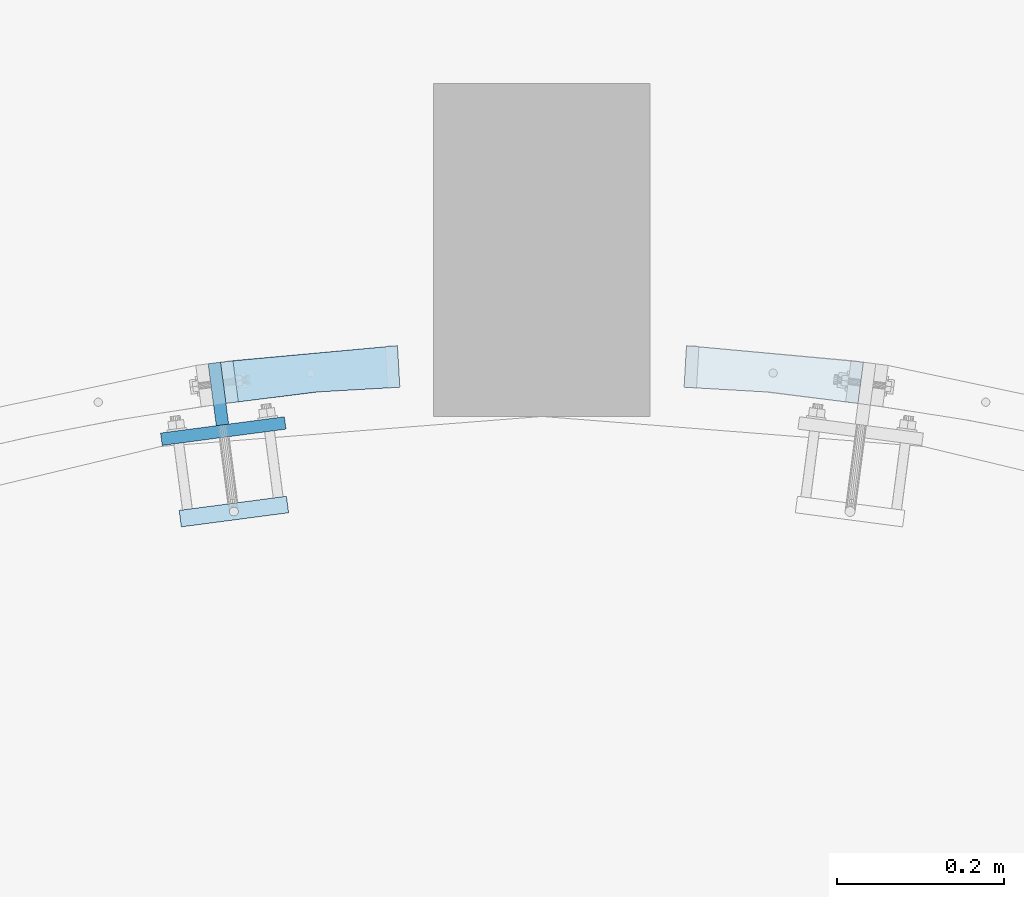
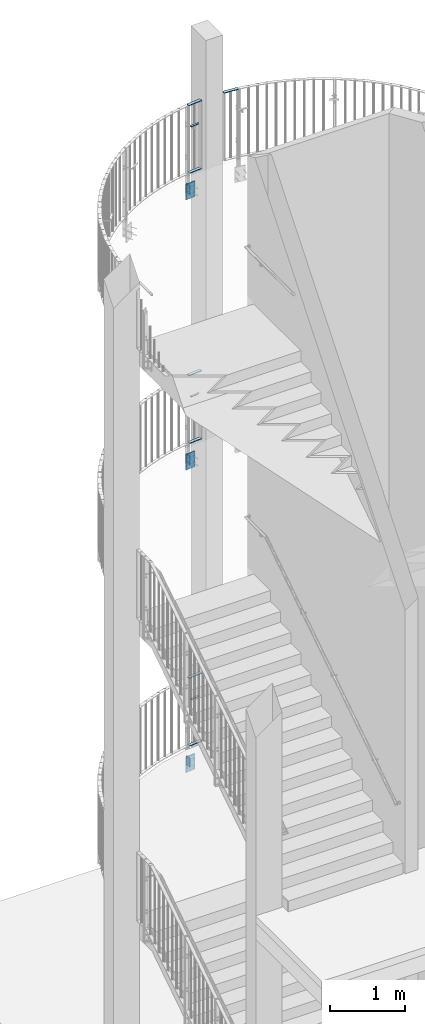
# One storey, part 114 of 296: 16 plates, 35 openings.
"""IFC2X3 building model written with IfcOpenShell, lengths in millimetres."""

from ifc_helpers import new_model, entity, si_unit, converted_unit, point, frame, frame_2d, origin, origin_with_axes, origin_2d_with_axis, place, context, project, spatial, polyline, circle_curve, line_curve, trimmed, segment, composite_curve, circle, outline, extrude, material, layer, layer_set, element, save


model = new_model("IFC2X3")

# Units and contexts
model_context = context("Model", 3, precision=1e-09, world=origin_with_axes())
ifc_project = project(units=[si_unit("LENGTHUNIT", "METRE", prefix="MILLI"), si_unit("AREAUNIT", "SQUARE_METRE"), si_unit("VOLUMEUNIT", "CUBIC_METRE"), converted_unit("PLANEANGLEUNIT", "DEGREE", entity("IfcPlaneAngleMeasure", 0.01745329), si_unit("PLANEANGLEUNIT", "RADIAN"), dimensions=[0, 0, 0, 0, 0, 0, 0])], contexts=[model_context])

# Site, building, storey
site_placement = place(None, origin_with_axes())
site = spatial("IfcSite", under=ifc_project, at=site_placement, Name="TZD-S?d | Treppenhausgel?nder", CompositionType="ELEMENT")
building_placement = place(site_placement, origin_with_axes())
building = spatial("IfcBuilding", under=site, at=building_placement, Name="Struktur 1", CompositionType="ELEMENT")
storey_placement = place(building_placement, origin_with_axes())
storey = spatial("IfcBuildingStorey", under=building, at=storey_placement, Name="Default Storey", CompositionType="ELEMENT", Elevation=0.0)

# Plate, openings
ifc_material = material(Name="S235JR")
ifc_layer_1 = layer(ifc_material, 10.0)
ifc_layer_set_1 = layer_set([ifc_layer_1], Name="S235JR")
plate_1_placement = place(None, frame((3304.573085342, 2840.603555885, 12815.0), z_axis=(0.0, 0.0, -1.0), x_axis=(-0.991771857, 0.128017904, 0.0)))
plate_1 = element("IfcPlate", 1, at=plate_1_placement, inside=storey, material=ifc_layer_set_1, Name="Girder", ObjectType="Girder", context=model_context, shape_type="SweptSolid", body=[
    extrude(outline(polyline([(0.0, 0.0), (104.966740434, 0.0), (209.67070119, -7.422748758), (213.206463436, 42.452078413), (106.673678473, 50.004477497), (-0.126475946, 49.999997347), (0.0, 0.0)])), origin_with_axes(), (0.0, 0.0, -1.0), 10.0),
])
opening_1_placement = place(plate_1_placement, frame((104.966740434, 0.0, 0.0), z_axis=(0.0, 0.0, -1.0), x_axis=(0.997496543, -0.070715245, 0.0)))
element("IfcOpeningElement", 2, at=opening_1_placement, cuts=plate_1, ObjectType="Opening", context=model_context, shape_type="SweptSolid", body=[
    extrude(outline(composite_curve([segment(trimmed(line_curve((0.0, 0.0), (1.0, 0.0), 104.966740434), [point((0.0, 0.0))], [point((104.966740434, 0.0))], True, "CARTESIAN"), True, "CONTINUOUS"), segment(trimmed(circle_curve(frame_2d((104.966740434, 2965.0), x_axis=(-1.0, 0.0)), 2965.0), [point((104.966740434, 0.0))], [point((-104.703960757, 7.422748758))], False, "CARTESIAN"), True, "CONTINUOUS"), segment(trimmed(line_curve((-104.703960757, 7.422748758), (0.997496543, -0.070715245), 104.966740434), [point((-104.703960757, 7.422748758))], [point((0.0, 0.0))], True, "CARTESIAN"), True, "CONTINUOUS")], self_intersect=False)), origin(), (0.0, 0.0, -1.0), 10.0),
])
opening_2_placement = place(plate_1_placement, frame((106.673678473, 50.004477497, 0.01), z_axis=(0.0, 0.0, 1.0), x_axis=(-0.999999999, -4.1949e-05, 0.0)))
element("IfcOpeningElement", 3, at=opening_2_placement, cuts=plate_1, ObjectType="Opening", context=model_context, shape_type="SweptSolid", body=[
    extrude(outline(composite_curve([segment(trimmed(line_curve((0.0, 0.0), (1.0, 0.0), 106.800154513), [point((0.0, 0.0))], [point((106.800154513, 0.0))], True, "CARTESIAN"), True, "CONTINUOUS"), segment(trimmed(circle_curve(frame_2d((106.800154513, 3015.0), x_axis=(-1.0, 0.0)), 3015.0), [point((106.800154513, 0.0))], [point((-106.532468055, 7.556868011))], False, "CARTESIAN"), True, "CONTINUOUS"), segment(trimmed(line_curve((-106.532468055, 7.556868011), (0.997493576, -0.070757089), 106.800154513), [point((-106.532468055, 7.556868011))], [point((0.0, 0.0))], True, "CARTESIAN"), True, "CONTINUOUS")], self_intersect=False)), origin(), (0.0, 0.0, -1.0), 10.02),
])

plate_2_placement = place(None, frame((2545.426914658, 2840.603555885, 8440.0), z_axis=(0.0, 0.0, 1.0), x_axis=(0.991771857, 0.128017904, 0.0)))
plate_2 = element("IfcPlate", 4, at=plate_2_placement, inside=storey, material=ifc_layer_set_1, Name="Girder", ObjectType="Girder", context=model_context, shape_type="SweptSolid", body=[
    extrude(outline(polyline([(0.0, 0.0), (104.966740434, 0.0), (209.67070119, -7.422748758), (213.206463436, 42.452078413), (106.673678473, 50.004477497), (-0.126475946, 49.999997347), (0.0, 0.0)])), origin_with_axes(), (0.0, 0.0, 1.0), 10.0),
])
opening_3_placement = place(plate_2_placement, origin_with_axes())
element("IfcOpeningElement", 5, at=opening_3_placement, cuts=plate_2, ObjectType="Opening", context=model_context, shape_type="SweptSolid", body=[
    extrude(outline(composite_curve([segment(trimmed(line_curve((104.966740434, 0.0), (0.997496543, -0.070715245), 104.966740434), [point((104.966740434, 0.0))], [point((209.67070119, -7.422748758))], True, "CARTESIAN"), True, "CONTINUOUS"), segment(trimmed(circle_curve(frame_2d((0.0, -2965.0), x_axis=(1.0, 0.0)), 2965.0), [point((209.67070119, -7.422748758))], [point((0.0, 0.0))], True, "CARTESIAN"), True, "CONTINUOUS"), segment(trimmed(line_curve((0.0, 0.0), (1.0, 0.0), 104.966740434), [point((0.0, 0.0))], [point((104.966740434, 0.0))], True, "CARTESIAN"), True, "CONTINUOUS")], self_intersect=False)), origin(), (0.0, 0.0, 1.0), 10.0),
])
opening_4_placement = place(plate_2_placement, frame((0.0, 0.0, -0.01), z_axis=(0.0, 0.0, 1.0), x_axis=(1.0, 0.0, 0.0)))
element("IfcOpeningElement", 6, at=opening_4_placement, cuts=plate_2, ObjectType="Opening", context=model_context, shape_type="SweptSolid", body=[
    extrude(outline(composite_curve([segment(trimmed(line_curve((106.673678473, 50.004477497), (-0.999999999, -4.1949e-05), 106.800154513), [point((106.673678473, 50.004477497))], [point((-0.126475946, 49.999997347))], True, "CARTESIAN"), True, "CONTINUOUS"), segment(trimmed(circle_curve(frame_2d((0.0, -2965.0), x_axis=(-1.0, 0.0)), 3015.0), [point((-0.126475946, 49.999997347))], [point((213.206463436, 42.452078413))], False, "CARTESIAN"), True, "CONTINUOUS"), segment(trimmed(line_curve((213.206463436, 42.452078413), (-0.997496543, 0.070715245), 106.800154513), [point((213.206463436, 42.452078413))], [point((106.673678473, 50.004477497))], True, "CARTESIAN"), True, "CONTINUOUS")], self_intersect=False)), origin(), (0.0, 0.0, 1.0), 10.02),
])

plate_3_placement = place(None, frame((2560.30849276, 2842.486211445, 7350.0), z_axis=(0.0, 0.0, -1.0), x_axis=(-0.130526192, 0.991444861, 0.0)))
plate_3 = element("IfcPlate", 7, at=plate_3_placement, inside=storey, material=ifc_layer_set_1, Name="-", ObjectType="-", context=model_context, shape_type="SweptSolid", body=[
    extrude(outline(polyline([(0.0, 0.0), (50.001415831, 0.0), (49.260436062, 99.288524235), (41.988521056, 198.31316434), (-7.877202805, 194.651254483), (-0.739562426, 97.455086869), (0.0, 0.0)])), origin_with_axes(), (0.0, 0.0, 1.0), 10.0),
])
opening_5_placement = place(plate_3_placement, frame((0.0, 0.0, -0.01), z_axis=(0.0, 0.0, 1.0), x_axis=(1.0, 0.0, 0.0)))
element("IfcOpeningElement", 8, at=opening_5_placement, cuts=plate_3, ObjectType="Opening", context=model_context, shape_type="SweptSolid", body=[
    extrude(outline(composite_curve([segment(trimmed(line_curve((49.260436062, 99.288524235), (-0.073238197, 0.997314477), 99.291289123), [point((49.260436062, 99.288524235))], [point((41.988521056, 198.31316434))], True, "CARTESIAN"), True, "CONTINUOUS"), segment(trimmed(circle_curve(frame_2d((-2964.914627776, -22.5), x_axis=(-1.0, 0.0)), 3015.0), [point((41.988521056, 198.31316434))], [point((50.001415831, 0.0))], False, "CARTESIAN"), True, "CONTINUOUS"), segment(trimmed(line_curve((50.001415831, 0.0), (-0.007462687, 0.999972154), 99.291289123), [point((50.001415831, 0.0))], [point((49.260436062, 99.288524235))], True, "CARTESIAN"), True, "CONTINUOUS")], self_intersect=False)), origin(), (0.0, 0.0, 1.0), 10.02),
])
opening_6_placement = place(plate_3_placement, origin_with_axes())
element("IfcOpeningElement", 9, at=opening_6_placement, cuts=plate_3, ObjectType="Opening", context=model_context, shape_type="SweptSolid", body=[
    extrude(outline(composite_curve([segment(trimmed(line_curve((-0.739562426, 97.455086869), (0.007588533, -0.999971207), 97.457893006), [point((-0.739562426, 97.455086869))], [point((0.0, 0.0))], True, "CARTESIAN"), True, "CONTINUOUS"), segment(trimmed(circle_curve(frame_2d((-2964.914627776, -22.5), x_axis=(1.0, 0.0)), 2965.0), [point((0.0, 0.0))], [point((-7.877202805, 194.651254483))], True, "CARTESIAN"), True, "CONTINUOUS"), segment(trimmed(line_curve((-7.877202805, 194.651254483), (0.073238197, -0.997314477), 97.457893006), [point((-7.877202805, 194.651254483))], [point((-0.739562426, 97.455086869))], True, "CARTESIAN"), True, "CONTINUOUS")], self_intersect=False)), origin(), (0.0, 0.0, 1.0), 10.0),
])

ifc_layer_2 = layer(ifc_material, 15.0)
ifc_layer_set_2 = layer_set([ifc_layer_2], Name="S235JR")
plate_4_placement = place(None, frame((2543.210887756, 2799.976219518, 7100.001), z_axis=(-0.130526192, 0.991444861, 0.0), x_axis=(-0.991444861, -0.130526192, 0.0)))
plate_4 = element("IfcPlate", 10, at=plate_4_placement, inside=storey, material=ifc_layer_set_2, Name="Girder", ObjectType="Girder", context=model_context, shape_type="SweptSolid", body=[
    extrude(outline(polyline([(-75.0, -125.0), (75.0, -125.0), (75.0, 125.0), (-75.0, 125.0), (-75.0, -125.0)])), origin_with_axes(), (0.0, 0.0, 1.0), 15.0),
])
opening_7_placement = place(plate_4_placement, frame((0.0, 0.0, -0.5), z_axis=(0.0, 0.0, 1.0), x_axis=(1.0, 0.0, 0.0)))
element("IfcOpeningElement", 11, at=opening_7_placement, cuts=plate_4, ObjectType="Opening", context=model_context, shape_type="SweptSolid", body=[
    extrude(circle(Radius=7.001, at=frame_2d((55.0, 55.0), x_axis=(1.0, 0.0))), origin(), (0.0, 0.0, 1.0), 16.0),
])
opening_8_placement = place(plate_4_placement, frame((0.0, 0.0, -0.5), z_axis=(0.0, 0.0, 1.0), x_axis=(1.0, 0.0, 0.0)))
element("IfcOpeningElement", 12, at=opening_8_placement, cuts=plate_4, ObjectType="Opening", context=model_context, shape_type="SweptSolid", body=[
    extrude(circle(Radius=7.001, at=frame_2d((-55.0, 55.0), x_axis=(1.0, 0.0))), origin(), (0.0, 0.0, 1.0), 16.0),
])
opening_9_placement = place(plate_4_placement, frame((0.0, 0.0, -0.5), z_axis=(0.0, 0.0, 1.0), x_axis=(1.0, 0.0, 0.0)))
element("IfcOpeningElement", 13, at=opening_9_placement, cuts=plate_4, ObjectType="Opening", context=model_context, shape_type="SweptSolid", body=[
    extrude(circle(Radius=7.001, at=frame_2d((55.0, -55.0), x_axis=(1.0, 0.0))), origin(), (0.0, 0.0, 1.0), 16.0),
])
opening_10_placement = place(plate_4_placement, frame((0.0, 0.0, -0.5), z_axis=(0.0, 0.0, 1.0), x_axis=(1.0, 0.0, 0.0)))
element("IfcOpeningElement", 14, at=opening_10_placement, cuts=plate_4, ObjectType="Opening", context=model_context, shape_type="SweptSolid", body=[
    extrude(circle(Radius=7.001, at=frame_2d((-55.0, -55.0), x_axis=(1.0, 0.0))), origin(), (0.0, 0.0, 1.0), 16.0),
])

plate_5_placement = place(None, frame((2543.794099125, 2853.006021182, 7100.001), z_axis=(-0.991444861, -0.130526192, 0.0), x_axis=(0.130526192, -0.991444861, 0.0)))
plate_5 = element("IfcPlate", 15, at=plate_5_placement, inside=storey, material=ifc_layer_set_2, Name="Girder", ObjectType="Girder", context=model_context, shape_type="SweptSolid", body=[
    extrude(outline(polyline([(-37.5, -75.0), (37.5, -75.0), (37.5, 75.0), (-37.5, 75.0), (-37.5, -75.0)])), origin_with_axes(), (0.0, 0.0, 1.0), 15.0),
])
opening_11_placement = place(plate_5_placement, frame((-12.5, 0.0, -0.5), z_axis=(0.0, 0.0, 1.0), x_axis=(1.0, 0.0, 0.0)))
element("IfcOpeningElement", 16, at=opening_11_placement, cuts=plate_5, ObjectType="Opening", context=model_context, shape_type="SweptSolid", body=[
    extrude(circle(Radius=7.001, at=frame_2d((0.0, 50.0), x_axis=(1.0, 0.0))), origin(), (0.0, 0.0, 1.0), 16.0),
])
opening_12_placement = place(plate_5_placement, frame((-12.5, 0.0, -0.5), z_axis=(0.0, 0.0, 1.0), x_axis=(1.0, 0.0, 0.0)))
element("IfcOpeningElement", 17, at=opening_12_placement, cuts=plate_5, ObjectType="Opening", context=model_context, shape_type="SweptSolid", body=[
    extrude(circle(Radius=7.001, at=frame_2d((0.0, -50.0), x_axis=(1.0, 0.0))), origin(), (0.0, 0.0, 1.0), 16.0),
])

# Plate, opening
plate_6_placement = place(None, frame((2554.958245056, 2710.746181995, 8210.0), z_axis=(0.0, 0.0, 1.0), x_axis=(-0.991444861, -0.130526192, 0.0)))
plate_6 = element("IfcPlate", 18, at=plate_6_placement, inside=storey, material=ifc_layer_set_1, Name="Girder", ObjectType="Girder", context=model_context, shape_type="SweptSolid", body=[
    extrude(outline(polyline([(-65.0, -10.0), (65.0, -10.0), (65.0, 10.0), (-65.0, 10.0), (-65.0, -10.0)])), origin_with_axes(), (0.0, 0.0, 1.0), 10.0),
])
opening_13_placement = place(plate_6_placement, frame((1.87e-07, 1.41e-07, -0.5), z_axis=(0.0, 0.0, 1.0), x_axis=(-0.991444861, 0.130526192, 0.0)))
element("IfcOpeningElement", 19, at=opening_13_placement, cuts=plate_6, ObjectType="Opening", context=model_context, shape_type="SweptSolid", body=[
    extrude(circle(Radius=5.001, at=origin_2d_with_axis()), origin(), (0.0, 0.0, 1.0), 11.0),
])

# Plate, openings
plate_7_placement = place(None, frame((2545.426914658, 2840.603555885, 3540.0), z_axis=(0.0, 0.0, 1.0), x_axis=(0.991771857, 0.128017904, 0.0)))
plate_7 = element("IfcPlate", 20, at=plate_7_placement, inside=storey, material=ifc_layer_set_1, Name="Girder", ObjectType="Girder", context=model_context, shape_type="SweptSolid", body=[
    extrude(outline(polyline([(0.0, 0.0), (104.966740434, 0.0), (209.67070119, -7.422748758), (213.206463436, 42.452078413), (106.673678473, 50.004477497), (-0.126475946, 49.999997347), (0.0, 0.0)])), origin_with_axes(), (0.0, 0.0, 1.0), 10.0),
])
opening_14_placement = place(plate_7_placement, origin_with_axes())
element("IfcOpeningElement", 21, at=opening_14_placement, cuts=plate_7, ObjectType="Opening", context=model_context, shape_type="SweptSolid", body=[
    extrude(outline(composite_curve([segment(trimmed(line_curve((104.966740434, 0.0), (0.997496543, -0.070715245), 104.966740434), [point((104.966740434, 0.0))], [point((209.67070119, -7.422748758))], True, "CARTESIAN"), True, "CONTINUOUS"), segment(trimmed(circle_curve(frame_2d((0.0, -2965.0), x_axis=(1.0, 0.0)), 2965.0), [point((209.67070119, -7.422748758))], [point((0.0, 0.0))], True, "CARTESIAN"), True, "CONTINUOUS"), segment(trimmed(line_curve((0.0, 0.0), (1.0, 0.0), 104.966740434), [point((0.0, 0.0))], [point((104.966740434, 0.0))], True, "CARTESIAN"), True, "CONTINUOUS")], self_intersect=False)), origin(), (0.0, 0.0, 1.0), 10.0),
])
opening_15_placement = place(plate_7_placement, frame((0.0, 0.0, -0.01), z_axis=(0.0, 0.0, 1.0), x_axis=(1.0, 0.0, 0.0)))
element("IfcOpeningElement", 22, at=opening_15_placement, cuts=plate_7, ObjectType="Opening", context=model_context, shape_type="SweptSolid", body=[
    extrude(outline(composite_curve([segment(trimmed(line_curve((106.673678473, 50.004477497), (-0.999999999, -4.1949e-05), 106.800154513), [point((106.673678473, 50.004477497))], [point((-0.126475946, 49.999997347))], True, "CARTESIAN"), True, "CONTINUOUS"), segment(trimmed(circle_curve(frame_2d((0.0, -2965.0), x_axis=(-1.0, 0.0)), 3015.0), [point((-0.126475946, 49.999997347))], [point((213.206463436, 42.452078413))], False, "CARTESIAN"), True, "CONTINUOUS"), segment(trimmed(line_curve((213.206463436, 42.452078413), (-0.997496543, 0.070715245), 106.800154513), [point((213.206463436, 42.452078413))], [point((106.673678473, 50.004477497))], True, "CARTESIAN"), True, "CONTINUOUS")], self_intersect=False)), origin(), (0.0, 0.0, 1.0), 10.02),
])

plate_8_placement = place(None, frame((2560.30849276, 2842.486211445, 2450.0), z_axis=(0.0, 0.0, -1.0), x_axis=(-0.130526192, 0.991444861, 0.0)))
plate_8 = element("IfcPlate", 23, at=plate_8_placement, inside=storey, material=ifc_layer_set_1, Name="-", ObjectType="-", context=model_context, shape_type="SweptSolid", body=[
    extrude(outline(polyline([(0.0, 0.0), (50.001415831, 0.0), (49.260436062, 99.288524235), (41.988521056, 198.31316434), (-7.877202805, 194.651254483), (-0.739562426, 97.455086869), (0.0, 0.0)])), origin_with_axes(), (0.0, 0.0, 1.0), 10.0),
])
opening_16_placement = place(plate_8_placement, frame((0.0, 0.0, -0.01), z_axis=(0.0, 0.0, 1.0), x_axis=(1.0, 0.0, 0.0)))
element("IfcOpeningElement", 24, at=opening_16_placement, cuts=plate_8, ObjectType="Opening", context=model_context, shape_type="SweptSolid", body=[
    extrude(outline(composite_curve([segment(trimmed(line_curve((49.260436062, 99.288524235), (-0.073238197, 0.997314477), 99.291289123), [point((49.260436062, 99.288524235))], [point((41.988521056, 198.31316434))], True, "CARTESIAN"), True, "CONTINUOUS"), segment(trimmed(circle_curve(frame_2d((-2964.914627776, -22.5), x_axis=(-1.0, 0.0)), 3015.0), [point((41.988521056, 198.31316434))], [point((50.001415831, 0.0))], False, "CARTESIAN"), True, "CONTINUOUS"), segment(trimmed(line_curve((50.001415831, 0.0), (-0.007462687, 0.999972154), 99.291289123), [point((50.001415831, 0.0))], [point((49.260436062, 99.288524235))], True, "CARTESIAN"), True, "CONTINUOUS")], self_intersect=False)), origin(), (0.0, 0.0, 1.0), 10.02),
])
opening_17_placement = place(plate_8_placement, origin_with_axes())
element("IfcOpeningElement", 25, at=opening_17_placement, cuts=plate_8, ObjectType="Opening", context=model_context, shape_type="SweptSolid", body=[
    extrude(outline(composite_curve([segment(trimmed(line_curve((-0.739562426, 97.455086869), (0.007588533, -0.999971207), 97.457893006), [point((-0.739562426, 97.455086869))], [point((0.0, 0.0))], True, "CARTESIAN"), True, "CONTINUOUS"), segment(trimmed(circle_curve(frame_2d((-2964.914627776, -22.5), x_axis=(1.0, 0.0)), 2965.0), [point((0.0, 0.0))], [point((-7.877202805, 194.651254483))], True, "CARTESIAN"), True, "CONTINUOUS"), segment(trimmed(line_curve((-7.877202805, 194.651254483), (0.073238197, -0.997314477), 97.457893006), [point((-7.877202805, 194.651254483))], [point((-0.739562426, 97.455086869))], True, "CARTESIAN"), True, "CONTINUOUS")], self_intersect=False)), origin(), (0.0, 0.0, 1.0), 10.0),
])

plate_9_placement = place(None, frame((2543.210887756, 2799.976219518, 2200.001), z_axis=(-0.130526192, 0.991444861, 0.0), x_axis=(-0.991444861, -0.130526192, 0.0)))
plate_9 = element("IfcPlate", 26, at=plate_9_placement, inside=storey, material=ifc_layer_set_2, Name="Girder", ObjectType="Girder", context=model_context, shape_type="SweptSolid", body=[
    extrude(outline(polyline([(-75.0, -125.0), (75.0, -125.0), (75.0, 125.0), (-75.0, 125.0), (-75.0, -125.0)])), origin_with_axes(), (0.0, 0.0, 1.0), 15.0),
])
opening_18_placement = place(plate_9_placement, frame((0.0, 0.0, -0.5), z_axis=(0.0, 0.0, 1.0), x_axis=(1.0, 0.0, 0.0)))
element("IfcOpeningElement", 27, at=opening_18_placement, cuts=plate_9, ObjectType="Opening", context=model_context, shape_type="SweptSolid", body=[
    extrude(circle(Radius=7.001, at=frame_2d((55.0, 55.0), x_axis=(1.0, 0.0))), origin(), (0.0, 0.0, 1.0), 16.0),
])
opening_19_placement = place(plate_9_placement, frame((0.0, 0.0, -0.5), z_axis=(0.0, 0.0, 1.0), x_axis=(1.0, 0.0, 0.0)))
element("IfcOpeningElement", 28, at=opening_19_placement, cuts=plate_9, ObjectType="Opening", context=model_context, shape_type="SweptSolid", body=[
    extrude(circle(Radius=7.001, at=frame_2d((-55.0, 55.0), x_axis=(1.0, 0.0))), origin(), (0.0, 0.0, 1.0), 16.0),
])
opening_20_placement = place(plate_9_placement, frame((0.0, 0.0, -0.5), z_axis=(0.0, 0.0, 1.0), x_axis=(1.0, 0.0, 0.0)))
element("IfcOpeningElement", 29, at=opening_20_placement, cuts=plate_9, ObjectType="Opening", context=model_context, shape_type="SweptSolid", body=[
    extrude(circle(Radius=7.001, at=frame_2d((55.0, -55.0), x_axis=(1.0, 0.0))), origin(), (0.0, 0.0, 1.0), 16.0),
])
opening_21_placement = place(plate_9_placement, frame((0.0, 0.0, -0.5), z_axis=(0.0, 0.0, 1.0), x_axis=(1.0, 0.0, 0.0)))
element("IfcOpeningElement", 30, at=opening_21_placement, cuts=plate_9, ObjectType="Opening", context=model_context, shape_type="SweptSolid", body=[
    extrude(circle(Radius=7.001, at=frame_2d((-55.0, -55.0), x_axis=(1.0, 0.0))), origin(), (0.0, 0.0, 1.0), 16.0),
])

plate_10_placement = place(None, frame((2543.794099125, 2853.006021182, 2200.001), z_axis=(-0.991444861, -0.130526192, 0.0), x_axis=(0.130526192, -0.991444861, 0.0)))
plate_10 = element("IfcPlate", 31, at=plate_10_placement, inside=storey, material=ifc_layer_set_2, Name="Girder", ObjectType="Girder", context=model_context, shape_type="SweptSolid", body=[
    extrude(outline(polyline([(-37.5, -75.0), (37.5, -75.0), (37.5, 75.0), (-37.5, 75.0), (-37.5, -75.0)])), origin_with_axes(), (0.0, 0.0, 1.0), 15.0),
])
opening_22_placement = place(plate_10_placement, frame((-12.5, 0.0, -0.5), z_axis=(0.0, 0.0, 1.0), x_axis=(1.0, 0.0, 0.0)))
element("IfcOpeningElement", 32, at=opening_22_placement, cuts=plate_10, ObjectType="Opening", context=model_context, shape_type="SweptSolid", body=[
    extrude(circle(Radius=7.001, at=frame_2d((0.0, 50.0), x_axis=(1.0, 0.0))), origin(), (0.0, 0.0, 1.0), 16.0),
])
opening_23_placement = place(plate_10_placement, frame((-12.5, 0.0, -0.5), z_axis=(0.0, 0.0, 1.0), x_axis=(1.0, 0.0, 0.0)))
element("IfcOpeningElement", 33, at=opening_23_placement, cuts=plate_10, ObjectType="Opening", context=model_context, shape_type="SweptSolid", body=[
    extrude(circle(Radius=7.001, at=frame_2d((0.0, -50.0), x_axis=(1.0, 0.0))), origin(), (0.0, 0.0, 1.0), 16.0),
])

# Plate, opening
plate_11_placement = place(None, frame((2554.958245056, 2710.746181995, 3310.0), z_axis=(0.0, 0.0, 1.0), x_axis=(-0.991444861, -0.130526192, 0.0)))
plate_11 = element("IfcPlate", 34, at=plate_11_placement, inside=storey, material=ifc_layer_set_1, Name="Girder", ObjectType="Girder", context=model_context, shape_type="SweptSolid", body=[
    extrude(outline(polyline([(-65.0, -10.0), (65.0, -10.0), (65.0, 10.0), (-65.0, 10.0), (-65.0, -10.0)])), origin_with_axes(), (0.0, 0.0, 1.0), 10.0),
])
opening_24_placement = place(plate_11_placement, frame((2.79e-07, 2.32e-07, -0.5), z_axis=(0.0, 0.0, 1.0), x_axis=(-0.991444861, 0.130526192, 0.0)))
element("IfcOpeningElement", 35, at=opening_24_placement, cuts=plate_11, ObjectType="Opening", context=model_context, shape_type="SweptSolid", body=[
    extrude(circle(Radius=5.001, at=origin_2d_with_axis()), origin(), (0.0, 0.0, 1.0), 11.0),
])

# Plate, openings
plate_12_placement = place(None, frame((2543.210887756, 2799.976219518, 11475.001), z_axis=(-0.130526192, 0.991444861, 0.0), x_axis=(-0.991444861, -0.130526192, 0.0)))
plate_12 = element("IfcPlate", 36, at=plate_12_placement, inside=storey, material=ifc_layer_set_2, Name="Girder", ObjectType="Girder", context=model_context, shape_type="SweptSolid", body=[
    extrude(outline(polyline([(-75.0, -125.0), (75.0, -125.0), (75.0, 125.0), (-75.0, 125.0), (-75.0, -125.0)])), origin_with_axes(), (0.0, 0.0, 1.0), 15.0),
])
opening_25_placement = place(plate_12_placement, frame((0.0, 0.0, -0.5), z_axis=(0.0, 0.0, 1.0), x_axis=(1.0, 0.0, 0.0)))
element("IfcOpeningElement", 37, at=opening_25_placement, cuts=plate_12, ObjectType="Opening", context=model_context, shape_type="SweptSolid", body=[
    extrude(circle(Radius=7.001, at=frame_2d((55.0, 55.0), x_axis=(1.0, 0.0))), origin(), (0.0, 0.0, 1.0), 16.0),
])
opening_26_placement = place(plate_12_placement, frame((0.0, 0.0, -0.5), z_axis=(0.0, 0.0, 1.0), x_axis=(1.0, 0.0, 0.0)))
element("IfcOpeningElement", 38, at=opening_26_placement, cuts=plate_12, ObjectType="Opening", context=model_context, shape_type="SweptSolid", body=[
    extrude(circle(Radius=7.001, at=frame_2d((-55.0, 55.0), x_axis=(1.0, 0.0))), origin(), (0.0, 0.0, 1.0), 16.0),
])
opening_27_placement = place(plate_12_placement, frame((0.0, 0.0, -0.5), z_axis=(0.0, 0.0, 1.0), x_axis=(1.0, 0.0, 0.0)))
element("IfcOpeningElement", 39, at=opening_27_placement, cuts=plate_12, ObjectType="Opening", context=model_context, shape_type="SweptSolid", body=[
    extrude(circle(Radius=7.001, at=frame_2d((55.0, -55.0), x_axis=(1.0, 0.0))), origin(), (0.0, 0.0, 1.0), 16.0),
])
opening_28_placement = place(plate_12_placement, frame((0.0, 0.0, -0.5), z_axis=(0.0, 0.0, 1.0), x_axis=(1.0, 0.0, 0.0)))
element("IfcOpeningElement", 40, at=opening_28_placement, cuts=plate_12, ObjectType="Opening", context=model_context, shape_type="SweptSolid", body=[
    extrude(circle(Radius=7.001, at=frame_2d((-55.0, -55.0), x_axis=(1.0, 0.0))), origin(), (0.0, 0.0, 1.0), 16.0),
])

plate_13_placement = place(None, frame((2543.794099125, 2853.006021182, 11475.001), z_axis=(-0.991444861, -0.130526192, 0.0), x_axis=(0.130526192, -0.991444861, 0.0)))
plate_13 = element("IfcPlate", 41, at=plate_13_placement, inside=storey, material=ifc_layer_set_2, Name="Girder", ObjectType="Girder", context=model_context, shape_type="SweptSolid", body=[
    extrude(outline(polyline([(-37.5, -75.0), (37.5, -75.0), (37.5, 75.0), (-37.5, 75.0), (-37.5, -75.0)])), origin_with_axes(), (0.0, 0.0, 1.0), 15.0),
])
opening_29_placement = place(plate_13_placement, frame((-12.5, 0.0, -0.5), z_axis=(0.0, 0.0, 1.0), x_axis=(1.0, 0.0, 0.0)))
element("IfcOpeningElement", 42, at=opening_29_placement, cuts=plate_13, ObjectType="Opening", context=model_context, shape_type="SweptSolid", body=[
    extrude(circle(Radius=7.001, at=frame_2d((0.0, 50.0), x_axis=(1.0, 0.0))), origin(), (0.0, 0.0, 1.0), 16.0),
])
opening_30_placement = place(plate_13_placement, frame((-12.5, 0.0, -0.5), z_axis=(0.0, 0.0, 1.0), x_axis=(1.0, 0.0, 0.0)))
element("IfcOpeningElement", 43, at=opening_30_placement, cuts=plate_13, ObjectType="Opening", context=model_context, shape_type="SweptSolid", body=[
    extrude(circle(Radius=7.001, at=frame_2d((0.0, -50.0), x_axis=(1.0, 0.0))), origin(), (0.0, 0.0, 1.0), 16.0),
])

# Plate, opening
plate_14_placement = place(None, frame((2554.958245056, 2710.746181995, 12585.0), z_axis=(0.0, 0.0, 1.0), x_axis=(-0.991444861, -0.130526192, 0.0)))
plate_14 = element("IfcPlate", 44, at=plate_14_placement, inside=storey, material=ifc_layer_set_1, Name="Girder", ObjectType="Girder", context=model_context, shape_type="SweptSolid", body=[
    extrude(outline(polyline([(-65.0, -10.0), (65.0, -10.0), (65.0, 10.0), (-65.0, 10.0), (-65.0, -10.0)])), origin_with_axes(), (0.0, 0.0, 1.0), 10.0),
])
opening_31_placement = place(plate_14_placement, frame((-2.26e-07, -1.95e-07, -0.5), z_axis=(0.0, 0.0, 1.0), x_axis=(-0.991444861, 0.130526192, 0.0)))
element("IfcOpeningElement", 45, at=opening_31_placement, cuts=plate_14, ObjectType="Opening", context=model_context, shape_type="SweptSolid", body=[
    extrude(circle(Radius=5.001, at=origin_2d_with_axis()), origin(), (0.0, 0.0, 1.0), 11.0),
])

# Plate, openings
plate_15_placement = place(None, frame((2560.30849276, 2842.486211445, 11725.0), z_axis=(0.0, 0.0, -1.0), x_axis=(-0.130526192, 0.991444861, 0.0)))
plate_15 = element("IfcPlate", 46, at=plate_15_placement, inside=storey, material=ifc_layer_set_1, Name="-", ObjectType="-", context=model_context, shape_type="SweptSolid", body=[
    extrude(outline(polyline([(0.0, 0.0), (50.001415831, 0.0), (49.260436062, 99.288524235), (41.988521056, 198.31316434), (-7.877202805, 194.651254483), (-0.739562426, 97.455086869), (0.0, 0.0)])), origin_with_axes(), (0.0, 0.0, 1.0), 10.0),
])
opening_32_placement = place(plate_15_placement, frame((0.0, 0.0, -0.01), z_axis=(0.0, 0.0, 1.0), x_axis=(1.0, 0.0, 0.0)))
element("IfcOpeningElement", 47, at=opening_32_placement, cuts=plate_15, ObjectType="Opening", context=model_context, shape_type="SweptSolid", body=[
    extrude(outline(composite_curve([segment(trimmed(line_curve((49.260436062, 99.288524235), (-0.073238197, 0.997314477), 99.291289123), [point((49.260436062, 99.288524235))], [point((41.988521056, 198.31316434))], True, "CARTESIAN"), True, "CONTINUOUS"), segment(trimmed(circle_curve(frame_2d((-2964.914627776, -22.5), x_axis=(-1.0, 0.0)), 3015.0), [point((41.988521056, 198.31316434))], [point((50.001415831, 0.0))], False, "CARTESIAN"), True, "CONTINUOUS"), segment(trimmed(line_curve((50.001415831, 0.0), (-0.007462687, 0.999972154), 99.291289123), [point((50.001415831, 0.0))], [point((49.260436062, 99.288524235))], True, "CARTESIAN"), True, "CONTINUOUS")], self_intersect=False)), origin(), (0.0, 0.0, 1.0), 10.02),
])
opening_33_placement = place(plate_15_placement, origin_with_axes())
element("IfcOpeningElement", 48, at=opening_33_placement, cuts=plate_15, ObjectType="Opening", context=model_context, shape_type="SweptSolid", body=[
    extrude(outline(composite_curve([segment(trimmed(line_curve((-0.739562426, 97.455086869), (0.007588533, -0.999971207), 97.457893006), [point((-0.739562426, 97.455086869))], [point((0.0, 0.0))], True, "CARTESIAN"), True, "CONTINUOUS"), segment(trimmed(circle_curve(frame_2d((-2964.914627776, -22.5), x_axis=(1.0, 0.0)), 2965.0), [point((0.0, 0.0))], [point((-7.877202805, 194.651254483))], True, "CARTESIAN"), True, "CONTINUOUS"), segment(trimmed(line_curve((-7.877202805, 194.651254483), (0.073238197, -0.997314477), 97.457893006), [point((-7.877202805, 194.651254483))], [point((-0.739562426, 97.455086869))], True, "CARTESIAN"), True, "CONTINUOUS")], self_intersect=False)), origin(), (0.0, 0.0, 1.0), 10.0),
])

plate_16_placement = place(None, frame((2545.426914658, 2840.603555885, 12815.0), z_axis=(0.0, 0.0, 1.0), x_axis=(0.991771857, 0.128017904, 0.0)))
plate_16 = element("IfcPlate", 49, at=plate_16_placement, inside=storey, material=ifc_layer_set_1, Name="Girder", ObjectType="Girder", context=model_context, shape_type="SweptSolid", body=[
    extrude(outline(polyline([(0.0, 0.0), (104.966740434, 0.0), (209.67070119, -7.422748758), (213.206463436, 42.452078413), (106.673678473, 50.004477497), (-0.126475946, 49.999997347), (0.0, 0.0)])), origin_with_axes(), (0.0, 0.0, 1.0), 10.0),
])
opening_34_placement = place(plate_16_placement, origin_with_axes())
element("IfcOpeningElement", 50, at=opening_34_placement, cuts=plate_16, ObjectType="Opening", context=model_context, shape_type="SweptSolid", body=[
    extrude(outline(composite_curve([segment(trimmed(line_curve((104.966740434, 0.0), (0.997496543, -0.070715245), 104.966740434), [point((104.966740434, 0.0))], [point((209.67070119, -7.422748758))], True, "CARTESIAN"), True, "CONTINUOUS"), segment(trimmed(circle_curve(frame_2d((0.0, -2965.0), x_axis=(1.0, 0.0)), 2965.0), [point((209.67070119, -7.422748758))], [point((0.0, 0.0))], True, "CARTESIAN"), True, "CONTINUOUS"), segment(trimmed(line_curve((0.0, 0.0), (1.0, 0.0), 104.966740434), [point((0.0, 0.0))], [point((104.966740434, 0.0))], True, "CARTESIAN"), True, "CONTINUOUS")], self_intersect=False)), origin(), (0.0, 0.0, 1.0), 10.0),
])
opening_35_placement = place(plate_16_placement, frame((0.0, 0.0, -0.01), z_axis=(0.0, 0.0, 1.0), x_axis=(1.0, 0.0, 0.0)))
element("IfcOpeningElement", 51, at=opening_35_placement, cuts=plate_16, ObjectType="Opening", context=model_context, shape_type="SweptSolid", body=[
    extrude(outline(composite_curve([segment(trimmed(line_curve((106.673678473, 50.004477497), (-0.999999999, -4.1949e-05), 106.800154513), [point((106.673678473, 50.004477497))], [point((-0.126475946, 49.999997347))], True, "CARTESIAN"), True, "CONTINUOUS"), segment(trimmed(circle_curve(frame_2d((0.0, -2965.0), x_axis=(-1.0, 0.0)), 3015.0), [point((-0.126475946, 49.999997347))], [point((213.206463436, 42.452078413))], False, "CARTESIAN"), True, "CONTINUOUS"), segment(trimmed(line_curve((213.206463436, 42.452078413), (-0.997496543, 0.070715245), 106.800154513), [point((213.206463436, 42.452078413))], [point((106.673678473, 50.004477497))], True, "CARTESIAN"), True, "CONTINUOUS")], self_intersect=False)), origin(), (0.0, 0.0, 1.0), 10.02),
])

save(model, "model.ifc")
